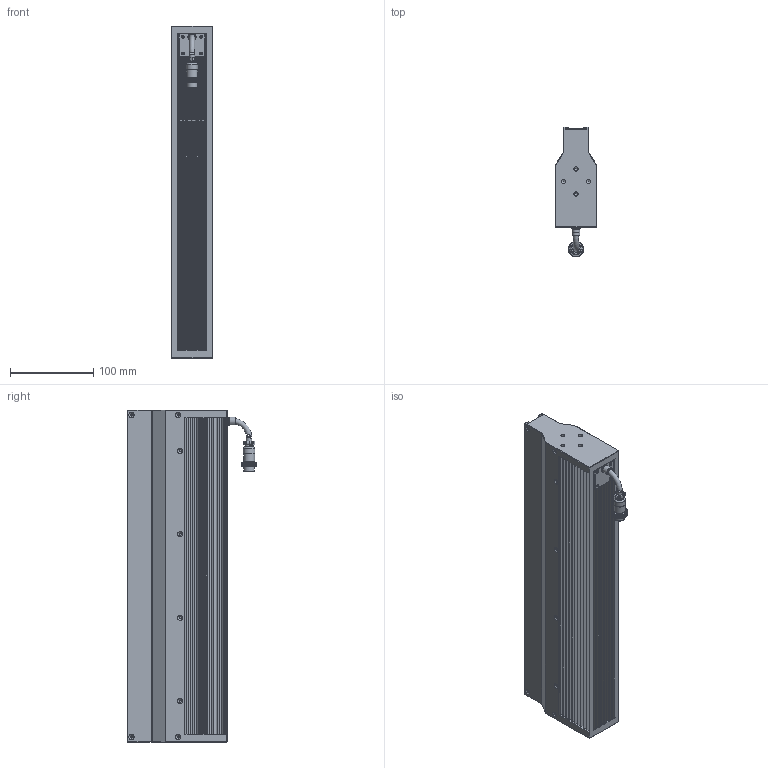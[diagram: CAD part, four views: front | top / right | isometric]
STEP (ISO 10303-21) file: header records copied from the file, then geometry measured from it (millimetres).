
FILE_DESCRIPTION (( 'STEP AP214' ), '1' );
FILE_NAME ('OPT-LSNL398-R-V1.1U尨砩芞.STEP', '2025-02-18T01:10:30', ( '' ), ( '' ), 'SwSTEP 2.0', 'SolidWorks 2016', '' );
FILE_SCHEMA (( 'AUTOMOTIVE_DESIGN' ));
Products named in the file (1): OPT-LSNL398-R-V1.1U尨砩芞
Bounding box: 50.02 x 155.15 x 398 mm (x, y, z)
Volume: 1454342.5 mm3; surface area: 502882.2 mm2
Topology: 6 solids, 11 shells, 3618 faces, 8231 edges, 4645 vertices
Faces by surface type: bspline 2059, cylinder 761, plane 751, cone 39, torus 8
Full cylindrical faces by diameter (mm): 0.95 x6, 1.1 x2, 1.4 x2, 2 x4, 2.5 x10, 3 x12, 3.4 x16, 3.5 x4, 5 x8, 6.4 x3, 7.5 x1, 8.6 x1, 9.3 x1, 9.8 x1, 10 x1, 13.2 x1, 14 x1, 16.1 x1
Entity records: 126312 total; most frequent: CARTESIAN_POINT 64634, ORIENTED_EDGE 16102, EDGE_CURVE 8051, DIRECTION 6024, B_SPLINE_CURVE_WITH_KNOTS 5574, VERTEX_POINT 4591, EDGE_LOOP 3814, FACE_OUTER_BOUND 3701
